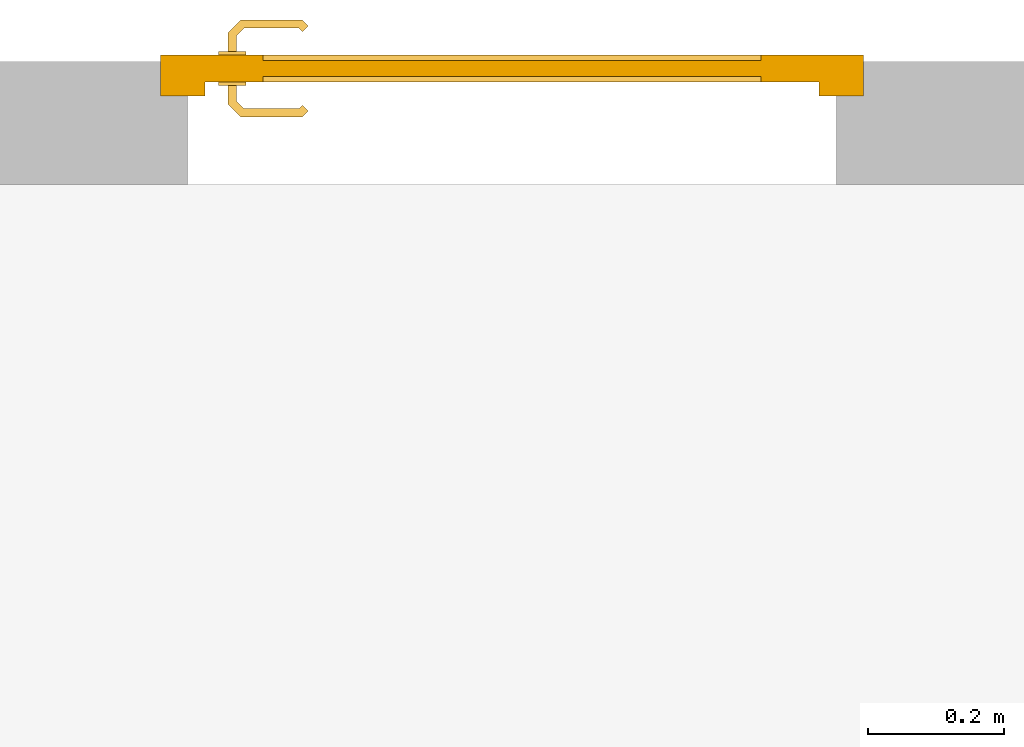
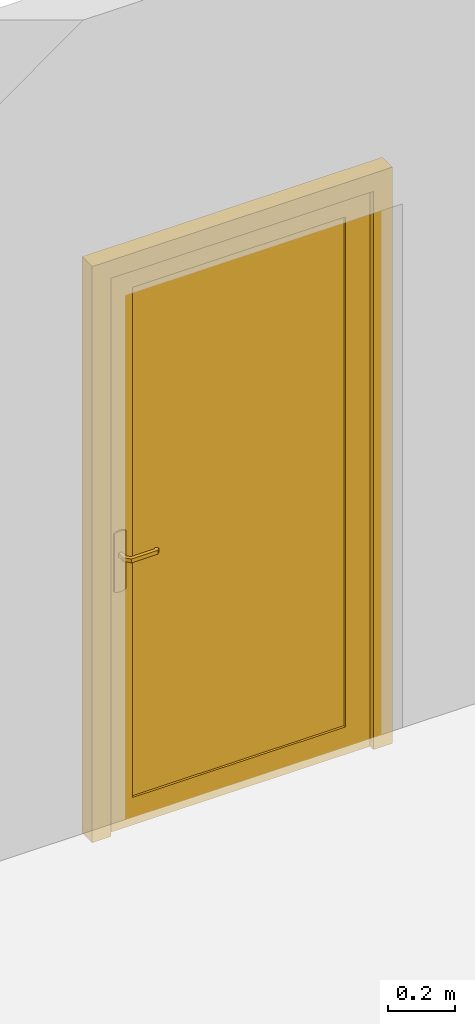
# One storey, part 9 of 9: 1 door.
"""IFC2X3 building model written with IfcOpenShell, lengths in metres."""

from ifc_helpers import new_model, entity, si_unit, converted_unit, derived_unit, direction, frame, origin, place, context, subcontext, project, spatial, faceted_brep, source, transform, mapped, material, type_object, type_shapes, element, save


model = new_model("IFC2X3")

# Units and contexts
model_context = context("Model", 3, precision=1e-05, world=origin(), true_north=direction((6.12303176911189e-17, 1.0)))
body_context = subcontext(model_context, "Body", "Model", "MODEL_VIEW")
ifc_project = project(units=[si_unit("LENGTHUNIT", "METRE"), si_unit("AREAUNIT", "SQUARE_METRE"), si_unit("VOLUMEUNIT", "CUBIC_METRE"), converted_unit("PLANEANGLEUNIT", "DEGREE", entity("IfcRatioMeasure", 0.0174532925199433), si_unit("PLANEANGLEUNIT", "RADIAN"), dimensions=[0, 0, 0, 0, 0, 0, 0]), si_unit("MASSUNIT", "GRAM", prefix="KILO"), derived_unit("MASSDENSITYUNIT", [(si_unit("MASSUNIT", "GRAM", prefix="KILO"), 1), (si_unit("LENGTHUNIT", "METRE"), -3)]), si_unit("TIMEUNIT", "SECOND"), si_unit("FREQUENCYUNIT", "HERTZ"), si_unit("THERMODYNAMICTEMPERATUREUNIT", "DEGREE_CELSIUS"), derived_unit("THERMALTRANSMITTANCEUNIT", [(si_unit("MASSUNIT", "GRAM", prefix="KILO"), 1), (si_unit("THERMODYNAMICTEMPERATUREUNIT", "KELVIN"), -1), (si_unit("TIMEUNIT", "SECOND"), -3)]), derived_unit("VOLUMETRICFLOWRATEUNIT", [(si_unit("LENGTHUNIT", "METRE"), 3), (si_unit("TIMEUNIT", "SECOND"), -1)]), si_unit("ELECTRICCURRENTUNIT", "AMPERE"), si_unit("ELECTRICVOLTAGEUNIT", "VOLT"), si_unit("POWERUNIT", "WATT"), si_unit("FORCEUNIT", "NEWTON", prefix="KILO"), si_unit("ILLUMINANCEUNIT", "LUX"), si_unit("LUMINOUSFLUXUNIT", "LUMEN"), si_unit("LUMINOUSINTENSITYUNIT", "CANDELA"), derived_unit("USERDEFINED", [(si_unit("MASSUNIT", "GRAM", prefix="KILO"), -1), (si_unit("LENGTHUNIT", "METRE"), -2), (si_unit("TIMEUNIT", "SECOND"), 3), (si_unit("LUMINOUSFLUXUNIT", "LUMEN"), 1)]), derived_unit("LINEARVELOCITYUNIT", [(si_unit("LENGTHUNIT", "METRE"), 1), (si_unit("TIMEUNIT", "SECOND"), -1)]), si_unit("PRESSUREUNIT", "PASCAL"), derived_unit("USERDEFINED", [(si_unit("LENGTHUNIT", "METRE"), -2), (si_unit("MASSUNIT", "GRAM", prefix="KILO"), 1), (si_unit("TIMEUNIT", "SECOND"), -2)])], contexts=[model_context])

# Site, building, storey
site_placement = place(None, origin())
site = spatial("IfcSite", under=ifc_project, at=site_placement, Name="Default", CompositionType="ELEMENT")
building_placement = place(site_placement, origin())
building = spatial("IfcBuilding", under=site, at=building_placement, CompositionType="ELEMENT")
storey_placement = place(building_placement, origin())
storey = spatial("IfcBuildingStorey", under=building, at=storey_placement, Name="Niveau 0", CompositionType="ELEMENT", Elevation=-1.94916083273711e-14)

# Door
ifc_material = material(Name="PVC - Blanc")
door_style = type_object("IfcDoorStyle", Name="0.93 x 2.04", ConstructionType="NOTDEFINED", OperationType="SINGLE_SWING_LEFT", ParameterTakesPrecedence=False, Sizeable=False, material=ifc_material)
shared_shape = source(origin(), body_context, "Body", "Brep", [
    faceted_brep([(0.927025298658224, 0.507412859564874, 1.00778044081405), (0.922974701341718, 0.507412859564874, 1.00778044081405), (0.918999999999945, 0.507412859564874, 1.00699999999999), (0.918999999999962, 0.507412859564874, 0.993000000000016), (0.922974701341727, 0.507412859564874, 0.99221955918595), (0.927025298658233, 0.507412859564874, 0.992219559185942), (0.930999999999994, 0.507412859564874, 0.992999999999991), (0.93099999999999, 0.507412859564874, 1.00699999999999), (0.918999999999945, 0.529898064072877, 1.00699999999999), (0.918999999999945, 0.529898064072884, 0.993000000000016), (0.922974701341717, 0.531544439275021, 1.00778044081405), (0.927025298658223, 0.533222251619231, 1.00778044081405), (0.910838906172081, 0.549408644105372, 1.00778044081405), (0.909161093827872, 0.545358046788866, 1.00778044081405), (0.825793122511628, 0.545358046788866, 1.00778044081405), (0.824115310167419, 0.549408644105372, 1.00778044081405), (0.81645104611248, 0.541744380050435, 1.00778044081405), (0.819315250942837, 0.538880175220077, 1.00778044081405), (0.93099999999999, 0.534868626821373, 1.00699999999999), (0.930999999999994, 0.534868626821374, 0.992999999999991), (0.927025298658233, 0.533222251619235, 0.992219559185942), (0.922974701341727, 0.531544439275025, 0.99221955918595), (0.909161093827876, 0.545358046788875, 0.99221955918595), (0.910838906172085, 0.549408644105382, 0.992219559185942), (0.824115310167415, 0.549408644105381, 0.992219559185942), (0.825793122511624, 0.545358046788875, 0.992219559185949), (0.819315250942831, 0.538880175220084, 0.992219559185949), (0.816451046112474, 0.541744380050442, 0.992219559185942), (0.907514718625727, 0.541383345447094, 1.00699999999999), (0.907514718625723, 0.541383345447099, 0.993000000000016), (0.912485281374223, 0.553383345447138, 1.00699999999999), (0.912485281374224, 0.553383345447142, 0.992999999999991), (0.86747710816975, 0.5413833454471, 1.00699999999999), (0.827439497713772, 0.541383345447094, 1.00699999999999), (0.827439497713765, 0.541383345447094, 0.993000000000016), (0.86747710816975, 0.541383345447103, 0.993000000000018), (0.867477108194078, 0.547537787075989, 1.00787811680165), (0.862399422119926, 0.55338334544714, 1.00699999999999), (0.822468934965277, 0.553383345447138, 1.00699999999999), (0.872554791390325, 0.553383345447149, 0.992999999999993), (0.822468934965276, 0.553383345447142, 0.992999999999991), (0.86747710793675, 0.547537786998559, 0.992121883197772), (0.813640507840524, 0.544554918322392, 1.00699999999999), (0.813640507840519, 0.544554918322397, 0.992999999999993), (0.822125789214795, 0.536069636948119, 0.993000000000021), (0.822125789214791, 0.536069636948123, 1.00699999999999)], [[[0, 1, 2, 3, 4, 5, 6, 7]], [[8, 9, 3, 2]], [[1, 10, 8, 2]], [[1, 0, 11, 12, 13, 10]], [[14, 15, 16, 17]], [[7, 18, 11, 0]], [[18, 7, 6, 19]], [[6, 5, 20, 19]], [[5, 4, 21, 22, 23, 20]], [[24, 25, 26, 27]], [[4, 3, 9, 21]], [[28, 29, 9, 8]], [[8, 10, 13, 28]], [[18, 30, 12, 11]], [[31, 30, 18, 19]], [[19, 20, 23, 31]], [[21, 9, 29, 22]], [[29, 28, 32, 33, 34, 35]], [[36, 32, 13]], [[37, 38, 15]], [[37, 12, 30]], [[36, 12, 37]], [[14, 32, 36]], [[36, 15, 14]], [[28, 13, 32]], [[32, 14, 33]], [[12, 36, 13]], [[15, 36, 37]], [[30, 31, 39, 40, 38, 37]], [[23, 41, 39]], [[24, 39, 41]], [[39, 31, 23]], [[39, 24, 40]], [[22, 35, 41]], [[41, 23, 22]], [[41, 35, 25]], [[35, 22, 29]], [[34, 25, 35]], [[24, 41, 25]], [[17, 16, 42, 43, 27, 26, 44, 45]], [[45, 44, 34, 33]], [[33, 14, 17, 45]], [[15, 38, 42, 16]], [[43, 42, 38, 40]], [[24, 27, 43, 40]], [[34, 44, 26, 25]]]),
    faceted_brep([(0.922974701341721, 0.457412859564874, 1.00778044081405), (0.927025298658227, 0.457412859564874, 1.00778044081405), (0.930999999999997, 0.457412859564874, 1.00699999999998), (0.931000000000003, 0.457412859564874, 0.992999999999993), (0.927025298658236, 0.457412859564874, 0.992219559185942), (0.922974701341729, 0.457412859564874, 0.99221955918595), (0.918999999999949, 0.457412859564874, 0.993000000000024), (0.918999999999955, 0.457412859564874, 1.00699999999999), (0.927025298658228, 0.431408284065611, 1.00778044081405), (0.930999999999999, 0.429761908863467, 1.00699999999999), (0.922974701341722, 0.43308609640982, 1.00778044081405), (0.909298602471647, 0.419409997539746, 1.00778044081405), (0.910976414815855, 0.41535940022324, 1.00778044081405), (0.824142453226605, 0.41535940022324, 1.00778044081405), (0.825820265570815, 0.419409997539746, 1.00778044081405), (0.819342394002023, 0.425887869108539, 1.00778044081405), (0.816478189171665, 0.423023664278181, 1.00778044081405), (0.918999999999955, 0.434732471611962, 1.00699999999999), (0.918999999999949, 0.434732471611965, 0.993000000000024), (0.922974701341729, 0.433086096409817, 0.99221955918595), (0.927025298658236, 0.431408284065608, 0.992219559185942), (0.910976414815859, 0.415359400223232, 0.992219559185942), (0.90929860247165, 0.419409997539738, 0.99221955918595), (0.825820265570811, 0.419409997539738, 0.992219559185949), (0.824142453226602, 0.415359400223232, 0.992219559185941), (0.81647818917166, 0.423023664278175, 0.992219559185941), (0.819342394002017, 0.425887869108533, 0.992219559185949), (0.931000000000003, 0.429761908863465, 0.992999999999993), (0.912622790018, 0.41138469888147, 1.00699999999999), (0.907652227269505, 0.423384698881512, 1.00699999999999), (0.907652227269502, 0.423384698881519, 0.993000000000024), (0.912622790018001, 0.411384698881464, 0.992999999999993), (0.86755943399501, 0.417230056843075, 1.00787811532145), (0.87269230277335, 0.411384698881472, 1.00699999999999), (0.822496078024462, 0.411384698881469, 1.00699999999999), (0.867559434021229, 0.423384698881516, 1.00699999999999), (0.827466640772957, 0.423384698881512, 1.00699999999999), (0.867559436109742, 0.423384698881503, 0.993000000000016), (0.82746664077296, 0.423384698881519, 0.993000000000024), (0.867559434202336, 0.417230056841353, 0.992121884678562), (0.862426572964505, 0.411384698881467, 0.992999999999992), (0.822496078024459, 0.411384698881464, 0.992999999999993), (0.822152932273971, 0.428698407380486, 0.993000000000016), (0.813667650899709, 0.420213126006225, 0.992999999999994), (0.813667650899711, 0.420213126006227, 1.00699999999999), (0.822152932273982, 0.428698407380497, 1.00699999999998)], [[[0, 1, 2, 3, 4, 5, 6, 7]], [[2, 1, 8, 9]], [[1, 0, 10, 11, 12, 8]], [[13, 14, 15, 16]], [[0, 7, 17, 10]], [[18, 17, 7, 6]], [[5, 19, 18, 6]], [[5, 4, 20, 21, 22, 19]], [[23, 24, 25, 26]], [[3, 27, 20, 4]], [[9, 27, 3, 2]], [[9, 8, 12, 28]], [[10, 17, 29, 11]], [[30, 29, 17, 18]], [[18, 19, 22, 30]], [[20, 27, 31, 21]], [[28, 31, 27, 9]], [[12, 32, 33]], [[13, 33, 32]], [[33, 28, 12]], [[33, 13, 34]], [[11, 35, 32]], [[32, 12, 11]], [[32, 35, 14]], [[35, 11, 29]], [[36, 14, 35]], [[13, 32, 14]], [[29, 30, 37, 38, 36, 35]], [[39, 37, 22]], [[40, 41, 24]], [[40, 21, 31]], [[39, 21, 40]], [[23, 37, 39]], [[39, 24, 23]], [[30, 22, 37]], [[37, 23, 38]], [[21, 39, 22]], [[24, 39, 40]], [[31, 28, 33, 34, 41, 40]], [[42, 26, 25, 43, 44, 16, 15, 45]], [[13, 16, 44, 34]], [[36, 45, 15, 14]], [[42, 45, 36, 38]], [[38, 23, 26, 42]], [[24, 41, 43, 25]], [[44, 43, 41, 34]]]),
    faceted_brep([(0.924999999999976, 0.502412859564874, 0.86464101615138), (0.935352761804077, 0.502412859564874, 0.866003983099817), (0.944999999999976, 0.502412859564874, 0.870000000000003), (0.944999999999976, 0.502412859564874, 1.08), (0.935352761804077, 0.502412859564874, 1.08399601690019), (0.924999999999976, 0.502412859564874, 1.08535898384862), (0.914647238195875, 0.502412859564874, 1.08399601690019), (0.904999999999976, 0.502412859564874, 1.08), (0.904999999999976, 0.502412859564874, 0.870000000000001), (0.914647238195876, 0.502412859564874, 0.866003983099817), (0.924999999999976, 0.507412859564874, 1.08535898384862), (0.935352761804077, 0.507412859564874, 1.08399601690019), (0.944999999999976, 0.507412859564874, 1.08), (0.944999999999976, 0.507412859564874, 0.870000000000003), (0.935352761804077, 0.507412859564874, 0.866003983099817), (0.924999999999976, 0.507412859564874, 0.86464101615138), (0.914647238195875, 0.507412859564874, 0.866003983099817), (0.904999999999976, 0.507412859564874, 0.870000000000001), (0.904999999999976, 0.507412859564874, 1.08), (0.914647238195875, 0.507412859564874, 1.08399601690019)], [[[0, 1, 2, 3, 4, 5, 6, 7, 8, 9]], [[10, 11, 12, 13, 14, 15, 16, 17, 18, 19]], [[6, 19, 18, 7]], [[5, 10, 19, 6]], [[4, 11, 10, 5]], [[4, 3, 12, 11]], [[12, 3, 2, 13]], [[1, 14, 13, 2]], [[0, 15, 14, 1]], [[9, 16, 15, 0]], [[9, 8, 17, 16]], [[17, 8, 7, 18]]]),
    faceted_brep([(0.924999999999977, 0.457412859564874, 0.86464101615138), (0.935352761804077, 0.457412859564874, 0.866003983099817), (0.944999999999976, 0.457412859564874, 0.870000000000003), (0.944999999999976, 0.457412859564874, 1.08), (0.935352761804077, 0.457412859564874, 1.08399601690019), (0.924999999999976, 0.457412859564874, 1.08535898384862), (0.914647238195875, 0.457412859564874, 1.08399601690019), (0.904999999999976, 0.457412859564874, 1.08), (0.904999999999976, 0.457412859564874, 0.870000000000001), (0.914647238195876, 0.457412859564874, 0.866003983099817), (0.944999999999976, 0.462412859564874, 1.08), (0.944999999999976, 0.462412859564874, 0.870000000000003), (0.935352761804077, 0.462412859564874, 0.866003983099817), (0.924999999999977, 0.462412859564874, 0.86464101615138), (0.914647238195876, 0.462412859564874, 0.866003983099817), (0.904999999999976, 0.462412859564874, 0.870000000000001), (0.904999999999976, 0.462412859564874, 1.08), (0.914647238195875, 0.462412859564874, 1.08399601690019), (0.924999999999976, 0.462412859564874, 1.08535898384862), (0.935352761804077, 0.462412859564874, 1.08399601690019)], [[[0, 1, 2, 3, 4, 5, 6, 7, 8, 9]], [[10, 11, 12, 13, 14, 15, 16, 17, 18, 19]], [[1, 12, 11, 2]], [[0, 13, 12, 1]], [[9, 14, 13, 0]], [[9, 8, 15, 14]], [[15, 8, 7, 16]], [[6, 17, 16, 7]], [[5, 18, 17, 6]], [[4, 19, 18, 5]], [[4, 3, 10, 19]], [[10, 3, 2, 11]]]),
    faceted_brep([(1.02999999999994, 0.462412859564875, 0.0), (0.979999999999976, 0.462412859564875, 0.0), (0.979999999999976, 0.502412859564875, 0.0), (0.964999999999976, 0.502412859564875, 0.0), (0.964999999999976, 0.522412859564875, 0.0), (1.02999999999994, 0.522412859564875, 0.0), (1.02999999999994, 0.522412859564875, 2.09000000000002), (1.02999999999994, 0.462412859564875, 2.09000000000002), (0.964999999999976, 0.522412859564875, 2.02500000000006), (0.0649999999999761, 0.522412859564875, 2.02500000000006), (0.064999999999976, 0.522412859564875, 0.0), (0.0, 0.522412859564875, 0.0), (0.0, 0.522412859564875, 2.09000000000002), (0.964999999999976, 0.502412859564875, 2.02500000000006), (0.979999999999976, 0.502412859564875, 2.04000000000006), (0.0499999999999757, 0.502412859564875, 2.04000000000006), (0.0499999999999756, 0.502412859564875, 0.0), (0.064999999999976, 0.502412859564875, 0.0), (0.0649999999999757, 0.502412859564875, 2.02500000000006), (0.979999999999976, 0.462412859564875, 2.04000000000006), (0.0, 0.462412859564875, 2.09000000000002), (0.0, 0.462412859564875, 0.0), (0.0499999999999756, 0.462412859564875, 0.0), (0.0499999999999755, 0.462412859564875, 2.04000000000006)], [[[0, 1, 2, 3, 4, 5]], [[5, 6, 7, 0]], [[4, 8, 9, 10, 11, 12, 6, 5]], [[3, 13, 8, 4]], [[2, 14, 15, 16, 17, 18, 13, 3]], [[1, 19, 14, 2]], [[0, 7, 20, 21, 22, 23, 19, 1]], [[11, 21, 20, 12]], [[10, 17, 16, 22, 21, 11]], [[9, 18, 17, 10]], [[15, 23, 22, 16]], [[6, 12, 20, 7]], [[8, 13, 18, 9]], [[14, 19, 23, 15]]]),
    faceted_brep([(0.979999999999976, 0.462412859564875, 2.04000000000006), (0.0499999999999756, 0.462412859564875, 2.04000000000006), (0.0499999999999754, 0.462412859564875, 0.0), (0.979999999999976, 0.462412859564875, 0.0), (0.149999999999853, 0.462412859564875, 1.95000000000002), (0.879999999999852, 0.462412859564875, 1.95000000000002), (0.879999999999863, 0.462412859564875, 0.099999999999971), (0.149999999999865, 0.462412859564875, 0.0999999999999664), (0.979999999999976, 0.502412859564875, 2.04000000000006), (0.979999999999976, 0.502412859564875, 0.0), (0.0499999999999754, 0.502412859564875, 0.0), (0.0499999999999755, 0.502412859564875, 2.04000000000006), (0.879999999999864, 0.502412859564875, 1.95000000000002), (0.149999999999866, 0.502412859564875, 1.95000000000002), (0.149999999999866, 0.502412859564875, 0.100000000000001), (0.879999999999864, 0.502412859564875, 0.100000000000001), (0.149999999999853, 0.470412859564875, 1.95000000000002), (0.149999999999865, 0.470412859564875, 0.0999999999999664), (0.879999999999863, 0.470412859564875, 0.099999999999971), (0.879999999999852, 0.470412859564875, 1.95000000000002), (0.879999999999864, 0.494412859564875, 1.95000000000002), (0.879999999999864, 0.494412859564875, 0.100000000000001), (0.149999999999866, 0.494412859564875, 0.100000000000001), (0.149999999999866, 0.494412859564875, 1.95000000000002)], [[[0, 1, 2, 3], [4, 5, 6, 7]], [[8, 9, 10, 11], [12, 13, 14, 15]], [[3, 9, 8, 0]], [[2, 10, 9, 3]], [[1, 11, 10, 2]], [[0, 8, 11, 1]], [[16, 17, 18, 19]], [[16, 4, 7, 17]], [[17, 7, 6, 18]], [[18, 6, 5, 19]], [[19, 5, 4, 16]], [[20, 21, 22, 23]], [[20, 12, 15, 21]], [[21, 15, 14, 22]], [[22, 14, 13, 23]], [[23, 13, 12, 20]]]),
])
type_shapes(door_style, [shared_shape])
door_placement = place(storey_placement, frame((19.1355386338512, 3.48153144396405, 0.0), z_axis=(0.0, 0.0, 1.0), x_axis=(-1.0, 0.0, 0.0)))
element("IfcDoor", 1, at=door_placement, inside=storey, type_object=door_style, material=ifc_material, Name="PVC Panneau Plein:0.93 x 2.04", ObjectType="0.93 x 2.04", OverallHeight=2.09000000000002, OverallWidth=1.02999999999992, context=body_context, shape_type="MappedRepresentation", body=[
    mapped(shared_shape, transform((0.0, 0.0, 0.0), scale=1.0)),
])

save(model, "model.ifc")
